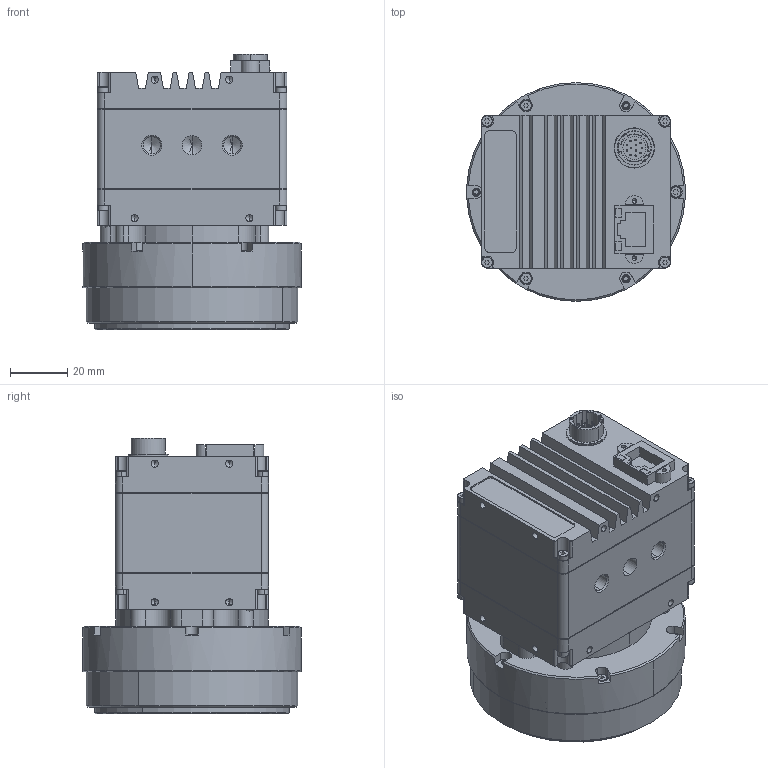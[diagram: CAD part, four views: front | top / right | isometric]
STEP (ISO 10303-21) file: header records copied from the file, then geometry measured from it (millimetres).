
FILE_DESCRIPTION (( 'STEP AP214' ), '1' );
FILE_NAME ('GT4907 PA M58.STEP', '2016-01-23T00:47:44', ( '' ), ( '' ), 'SwSTEP 2.0', 'SolidWorks 2015', '' );
FILE_SCHEMA (( 'AUTOMOTIVE_DESIGN' ));
Length unit declared in the file: millimetre
Products named in the file (4): GTLF BODY ASSY - defeatured_GT4907; GTLF PA FRONT ASSY - defeatured; GTLF 46.5MM M58 FRONT - defeatured; GT4907 PA M58
Assembly tree (3 placements, depth 2):
  GT4907 PA M58
    GTLF BODY ASSY - defeatured_GT4907
    GTLF PA FRONT ASSY - defeatured
    GTLF 46.5MM M58 FRONT - defeatured
Bounding box: 76.2 x 76.2 x 95.98 mm (x, y, z)
Volume: 214385 mm3; surface area: 57914.8 mm2
Topology: 3 solids, 11 shells, 1044 faces, 2615 edges, 1601 vertices
Faces by surface type: cylinder 381, plane 378, cone 175, bspline 63, sphere 26, torus 21
Entity records: 52719 total; most frequent: CARTESIAN_POINT 23458, DIRECTION 5183, ORIENTED_EDGE 4950, EDGE_CURVE 2475, AXIS2_PLACEMENT_3D 1945, VERTEX_POINT 1577, VECTOR 1293, LINE 1293
